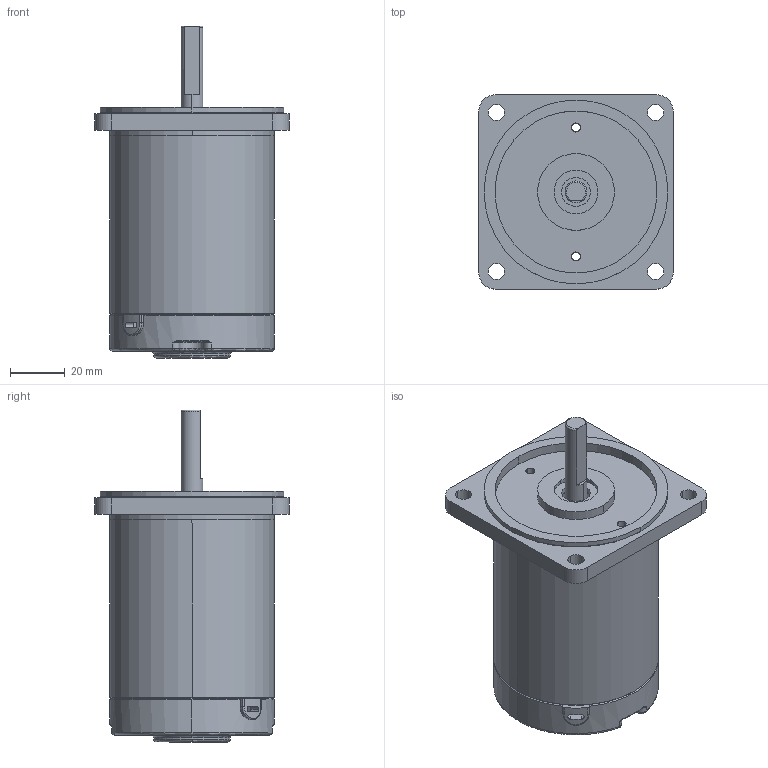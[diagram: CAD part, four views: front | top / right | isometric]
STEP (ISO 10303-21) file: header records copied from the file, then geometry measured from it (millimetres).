
FILE_DESCRIPTION (( 'STEP AP203' ), '1' );
FILE_NAME ('Z3D15W囀离65儂褲嫖萇儂.STEP', '2021-07-29T01:47:55', ( '' ), ( '' ), 'SwSTEP 2.0', 'SolidWorks 2021', '' );
FILE_SCHEMA (( 'CONFIG_CONTROL_DESIGN' ));
Length unit declared in the file: millimetre
Products named in the file (4): z3d25-12gn-30s-019-00001m; HOUGAI; Z3D15W囀离65儂褲嫖萇儂; JIKE
Assembly tree (3 placements, depth 2):
  Z3D15W囀离65儂褲嫖萇儂
    HOUGAI
    JIKE
    z3d25-12gn-30s-019-00001m
Bounding box: 70.8 x 70.8 x 121 mm (x, y, z)
Volume: 78887.9 mm3; surface area: 50567.8 mm2
Topology: 4 solids, 4 shells, 158 faces, 385 edges, 242 vertices
Faces by surface type: cylinder 75, plane 41, bspline 30, cone 7, torus 5
Entity records: 6332 total; most frequent: CARTESIAN_POINT 2304, ORIENTED_EDGE 762, DIRECTION 759, EDGE_CURVE 381, AXIS2_PLACEMENT_3D 312, VERTEX_POINT 242, EDGE_LOOP 191, CIRCLE 178
